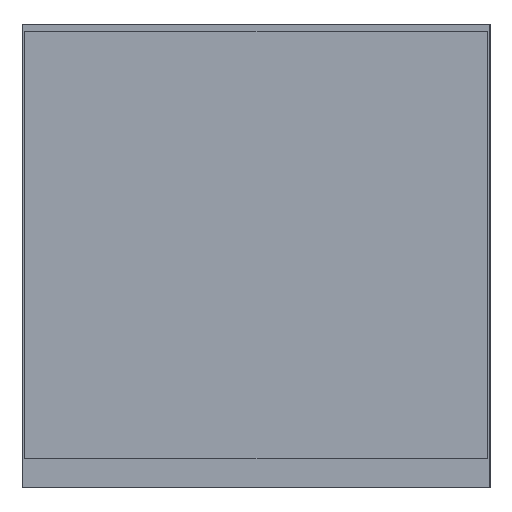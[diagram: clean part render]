
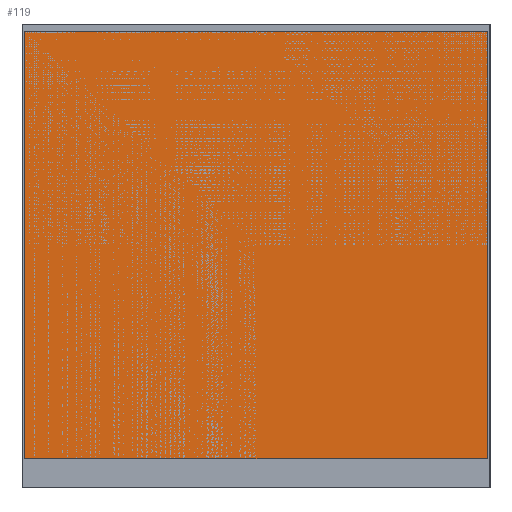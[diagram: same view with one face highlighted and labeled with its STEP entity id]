
A CAD part, left-side view. The second image highlights one B-rep face of the part: STEP entity #119.
In plain terms, the highlighted planar face has unit normal (-1, 0, 0).
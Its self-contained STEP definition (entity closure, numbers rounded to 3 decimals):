
#21 = EDGE_CURVE('',#22,#24,#26,.T.);
#22 = VERTEX_POINT('',#23);
#23 = CARTESIAN_POINT('',(-1.6,-0.8,0.12));
#24 = VERTEX_POINT('',#25);
#25 = CARTESIAN_POINT('',(-1.6,-0.8,1.6));
#26 = LINE('',#27,#28);
#27 = CARTESIAN_POINT('',(-1.6,-0.8,0.12));
#28 = VECTOR('',#29,1.);
#29 = DIRECTION('',(0.,0.,1.));
#94 = VERTEX_POINT('',#95);
#95 = CARTESIAN_POINT('',(-1.6,0.8,1.6));
#101 = EDGE_CURVE('',#102,#94,#104,.T.);
#102 = VERTEX_POINT('',#103);
#103 = CARTESIAN_POINT('',(-1.6,0.8,0.12));
#104 = LINE('',#105,#106);
#105 = CARTESIAN_POINT('',(-1.6,0.8,0.12));
#106 = VECTOR('',#107,1.);
#107 = DIRECTION('',(0.,0.,1.));
#119 = ADVANCED_FACE('',(#120),#136,.F.);
#120 = FACE_BOUND('',#121,.F.);
#121 = EDGE_LOOP('',(#122,#123,#129,#130));
#122 = ORIENTED_EDGE('',*,*,#101,.T.);
#123 = ORIENTED_EDGE('',*,*,#124,.T.);
#124 = EDGE_CURVE('',#94,#24,#125,.T.);
#125 = LINE('',#126,#127);
#126 = CARTESIAN_POINT('',(-1.6,0.8,1.6));
#127 = VECTOR('',#128,1.);
#128 = DIRECTION('',(0.,-1.,0.));
#129 = ORIENTED_EDGE('',*,*,#21,.F.);
#130 = ORIENTED_EDGE('',*,*,#131,.F.);
#131 = EDGE_CURVE('',#102,#22,#132,.T.);
#132 = LINE('',#133,#134);
#133 = CARTESIAN_POINT('',(-1.6,0.8,0.12));
#134 = VECTOR('',#135,1.);
#135 = DIRECTION('',(0.,-1.,0.));
#136 = PLANE('',#137);
#137 = AXIS2_PLACEMENT_3D('',#138,#139,#140);
#138 = CARTESIAN_POINT('',(-1.6,0.8,0.12));
#139 = DIRECTION('',(1.,0.,-0.));
#140 = DIRECTION('',(0.,-1.,0.));
